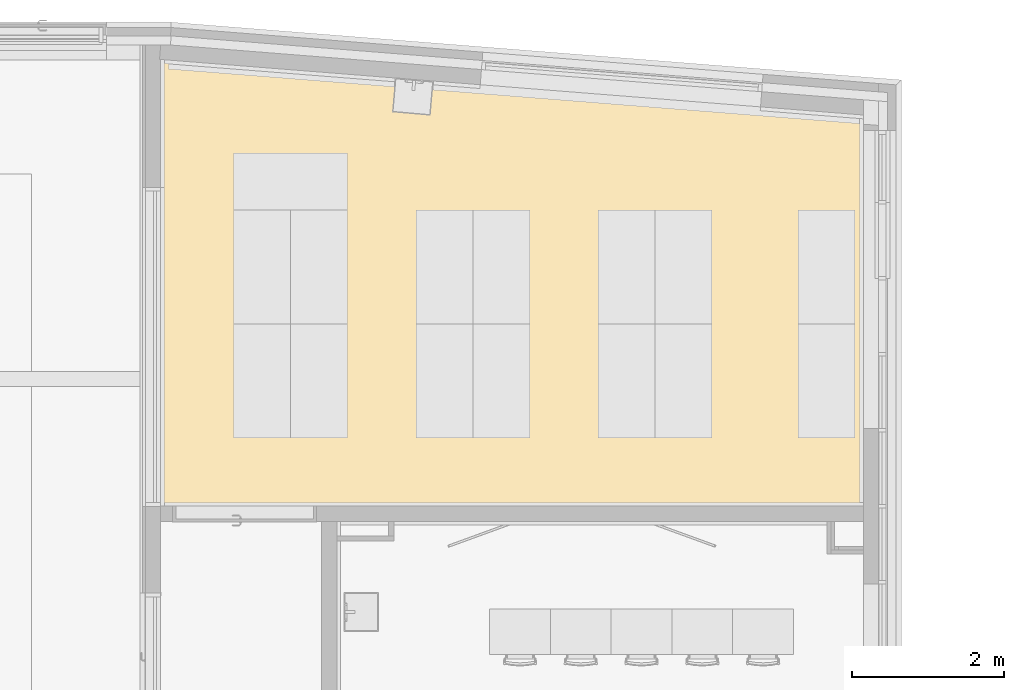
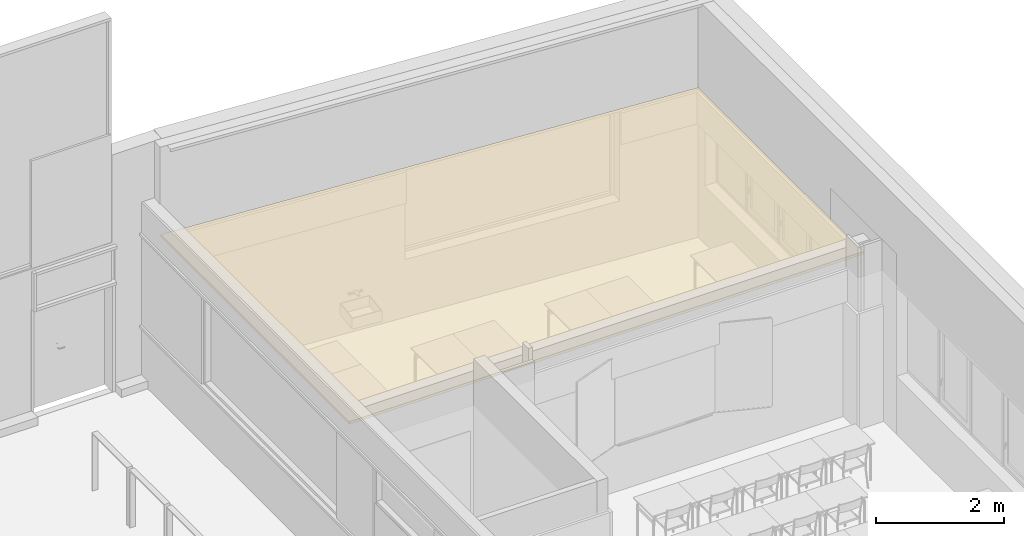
# One storey, part 109 of 137: 1 covering.
"""IFC2X3 building model written with IfcOpenShell, lengths in centimetres."""

from ifc_helpers import new_model, entity, si_unit, converted_unit, derived_unit, direction, frame, origin, place, context, subcontext, project, spatial, polyline, outline, extrude, material, layer, layer_set, layer_usage, element, save


model = new_model("IFC2X3")

# Units and contexts
model_context = context("Model", 3, precision=0.001, world=origin(), true_north=direction((6.12303176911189e-17, 1.0)))
body_context = subcontext(model_context, "Body", "Model", "MODEL_VIEW")
ifc_project = project(units=[si_unit("LENGTHUNIT", "METRE", prefix="CENTI"), si_unit("AREAUNIT", "SQUARE_METRE"), si_unit("VOLUMEUNIT", "CUBIC_METRE"), converted_unit("PLANEANGLEUNIT", "DEGREE", entity("IfcRatioMeasure", 0.0174532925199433), si_unit("PLANEANGLEUNIT", "RADIAN"), dimensions=[0, 0, 0, 0, 0, 0, 0]), si_unit("MASSUNIT", "GRAM", prefix="KILO"), si_unit("TIMEUNIT", "SECOND"), si_unit("FREQUENCYUNIT", "HERTZ"), si_unit("THERMODYNAMICTEMPERATUREUNIT", "DEGREE_CELSIUS"), derived_unit("THERMALTRANSMITTANCEUNIT", [(si_unit("MASSUNIT", "GRAM", prefix="KILO"), 1), (si_unit("THERMODYNAMICTEMPERATUREUNIT", "KELVIN"), -1), (si_unit("TIMEUNIT", "SECOND"), -3)]), derived_unit("VOLUMETRICFLOWRATEUNIT", [(si_unit("LENGTHUNIT", "METRE"), 3), (si_unit("TIMEUNIT", "SECOND"), -1)]), si_unit("ELECTRICCURRENTUNIT", "AMPERE"), si_unit("ELECTRICVOLTAGEUNIT", "VOLT"), si_unit("POWERUNIT", "WATT"), si_unit("FORCEUNIT", "NEWTON", prefix="KILO"), si_unit("ILLUMINANCEUNIT", "LUX"), si_unit("LUMINOUSFLUXUNIT", "LUMEN"), si_unit("LUMINOUSINTENSITYUNIT", "CANDELA"), derived_unit("USERDEFINED", [(si_unit("MASSUNIT", "GRAM", prefix="KILO"), -1), (si_unit("LENGTHUNIT", "METRE"), -2), (si_unit("TIMEUNIT", "SECOND"), 3), (si_unit("LUMINOUSFLUXUNIT", "LUMEN"), 1)]), derived_unit("LINEARVELOCITYUNIT", [(si_unit("LENGTHUNIT", "METRE"), 1), (si_unit("TIMEUNIT", "SECOND"), -1)]), si_unit("PRESSUREUNIT", "PASCAL"), derived_unit("USERDEFINED", [(si_unit("LENGTHUNIT", "METRE"), -2), (si_unit("MASSUNIT", "GRAM", prefix="KILO"), 1), (si_unit("TIMEUNIT", "SECOND"), -2)])], contexts=[model_context])

# Site, building, storey
site_placement = place(None, frame((8.62739174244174, -249.285249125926, 0.0)))
site = spatial("IfcSite", under=ifc_project, at=site_placement, Name="Default", CompositionType="ELEMENT")
building_placement = place(site_placement, origin())
building = spatial("IfcBuilding", under=site, at=building_placement, CompositionType="ELEMENT")
storey_placement = place(building_placement, origin())
storey = spatial("IfcBuildingStorey", under=building, at=storey_placement, Name="RDC", CompositionType="ELEMENT", Elevation=-8.82465566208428e-11)

# Covering
ifc_material = material(Name="Maçonnerie - Isolant_MU")
ifc_layer = layer(ifc_material, 5.0)
ifc_layer_set = layer_set([ifc_layer], Name="Plafond composé:Plafond avec isolation")
ifc_layer_usage = layer_usage(ifc_layer_set, "AXIS3", "NEGATIVE", 0.0)
covering_placement = place(storey_placement, origin())
element("IfcCovering", 1, at=covering_placement, inside=storey, material=ifc_layer_usage, Name="Plafond composé:Plafond avec isolation", ObjectType="Plafond composé:Plafond avec isolation", PredefinedType="CEILING", context=body_context, shape_type="SweptSolid", body=[
    extrude(outline(polyline([(-555.0, -241.058606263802), (370.0, -241.058606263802), (370.0, -138.558606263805), (370.0, 273.767559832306), (-555.0, 346.9082589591), (-555.0, -241.058606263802)])), frame((3608.90482780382, 7196.0388144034, 280.0)), (0.0, 0.0, 1.0), 5.0),
])

save(model, "model.ifc")
